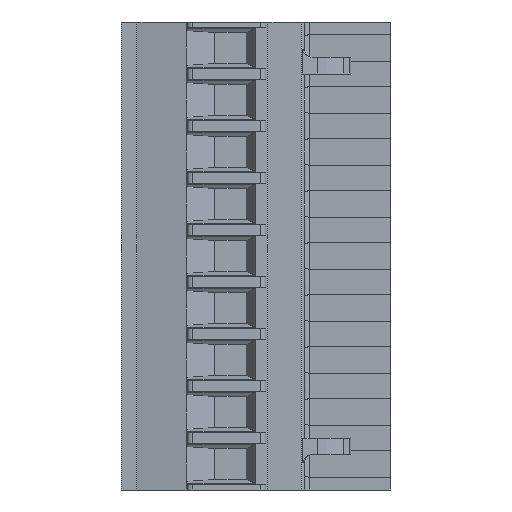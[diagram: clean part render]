
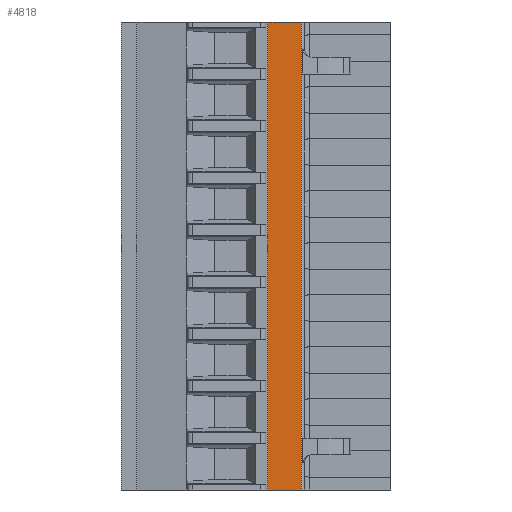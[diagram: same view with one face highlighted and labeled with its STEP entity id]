
A CAD part, left-side view. The second image highlights one B-rep face of the part: STEP entity #4818.
In plain terms, the highlighted planar face has unit normal (-1, 0, 0).
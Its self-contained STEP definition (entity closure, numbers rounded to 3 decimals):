
#4743 = EDGE_LOOP ( 'NONE', ( #4744, #4748, #4842, #4843 ) ) ;
#4744 = ORIENTED_EDGE ( 'NONE', *, *, #4745, .T. ) ;
#4745 = EDGE_CURVE ( 'NONE', #4746, #4747, #11657, .T. ) ;
#4746 = VERTEX_POINT ( 'NONE', #11599 ) ;
#4747 = VERTEX_POINT ( 'NONE', #11598 ) ;
#4748 = ORIENTED_EDGE ( 'NONE', *, *, #4749, .T. ) ;
#4749 = EDGE_CURVE ( 'NONE', #4747, #4810, #11597, .T. ) ;
#4809 = EDGE_CURVE ( 'NONE', #4860, #4810, #11792, .T. ) ;
#4810 = VERTEX_POINT ( 'NONE', #11757 ) ;
#4818 = ADVANCED_FACE ( 'NONE', ( #11900 ), #11925, .F. ) ;
#4842 = ORIENTED_EDGE ( 'NONE', *, *, #4809, .F. ) ;
#4843 = ORIENTED_EDGE ( 'NONE', *, *, #4844, .F. ) ;
#4844 = EDGE_CURVE ( 'NONE', #4746, #4860, #11889, .T. ) ;
#4860 = VERTEX_POINT ( 'NONE', #11856 ) ;
#11594 = DIRECTION ( 'NONE',  ( 0., 1., 0. ) ) ;
#11595 = VECTOR ( 'NONE', #11594, 1000. ) ;
#11596 = CARTESIAN_POINT ( 'NONE',  ( -8.232, 5.455, 0. ) ) ;
#11597 = LINE ( 'NONE', #11596, #11595 ) ;
#11598 = CARTESIAN_POINT ( 'NONE',  ( -8.232, 2.255, 0. ) ) ;
#11599 = CARTESIAN_POINT ( 'NONE',  ( -8.232, 2.255, -45. ) ) ;
#11600 = VECTOR ( 'NONE', #11655, 1000. ) ;
#11655 = DIRECTION ( 'NONE',  ( 0., 0., 1. ) ) ;
#11656 = CARTESIAN_POINT ( 'NONE',  ( -8.232, 2.255, -45. ) ) ;
#11657 = LINE ( 'NONE', #11656, #11600 ) ;
#11757 = CARTESIAN_POINT ( 'NONE',  ( -8.232, 5.455, 0. ) ) ;
#11758 = DIRECTION ( 'NONE',  ( 0., 0., 1. ) ) ;
#11759 = VECTOR ( 'NONE', #11758, 1000. ) ;
#11791 = CARTESIAN_POINT ( 'NONE',  ( -8.232, 5.455, -45. ) ) ;
#11792 = LINE ( 'NONE', #11791, #11759 ) ;
#11856 = CARTESIAN_POINT ( 'NONE',  ( -8.232, 5.455, -45. ) ) ;
#11886 = DIRECTION ( 'NONE',  ( 0., 1., 0. ) ) ;
#11887 = VECTOR ( 'NONE', #11886, 1000. ) ;
#11888 = CARTESIAN_POINT ( 'NONE',  ( -8.232, 5.455, -45. ) ) ;
#11889 = LINE ( 'NONE', #11888, #11887 ) ;
#11900 = FACE_OUTER_BOUND ( 'NONE', #4743, .T. ) ;
#11921 = DIRECTION ( 'NONE',  ( 0., -1., 0. ) ) ;
#11922 = DIRECTION ( 'NONE',  ( 1., 0., 0. ) ) ;
#11923 = CARTESIAN_POINT ( 'NONE',  ( -8.232, 5.455, -45. ) ) ;
#11924 = AXIS2_PLACEMENT_3D ( 'NONE', #11923, #11922, #11921 ) ;
#11925 = PLANE ( 'NONE',  #11924 ) ;
